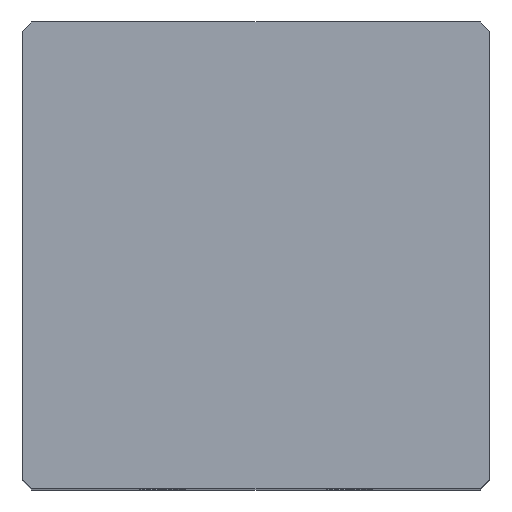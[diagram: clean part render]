
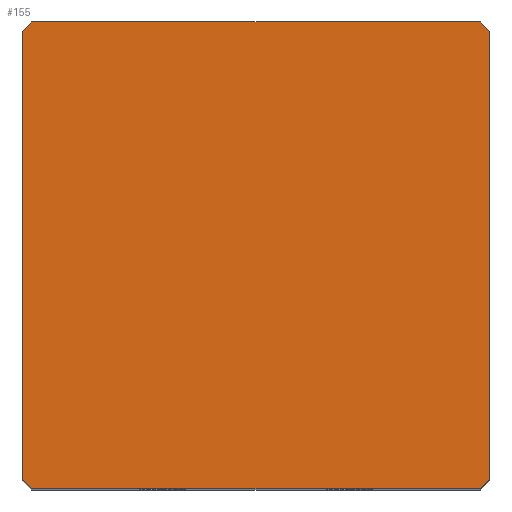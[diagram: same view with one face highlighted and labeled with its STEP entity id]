
A CAD part, top view. The second image highlights one B-rep face of the part: STEP entity #155.
In plain terms, the highlighted planar face has unit normal (0, 0, 1).
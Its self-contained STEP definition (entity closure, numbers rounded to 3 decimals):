
#39 = EDGE_CURVE('',#40,#42,#44,.T.);
#40 = VERTEX_POINT('',#41);
#41 = CARTESIAN_POINT('',(-10.,-9.6,31.75));
#42 = VERTEX_POINT('',#43);
#43 = CARTESIAN_POINT('',(-10.,9.6,31.75));
#44 = SURFACE_CURVE('',#45,(#49,#61),.PCURVE_S1.);
#45 = LINE('',#46,#47);
#46 = CARTESIAN_POINT('',(-10.,-10.,31.75));
#47 = VECTOR('',#48,1.);
#48 = DIRECTION('',(-0.,1.,0.));
#49 = PCURVE('',#50,#55);
#50 = PLANE('',#51);
#51 = AXIS2_PLACEMENT_3D('',#52,#53,#54);
#52 = CARTESIAN_POINT('',(-10.,-10.,0.));
#53 = DIRECTION('',(1.,0.,-0.));
#54 = DIRECTION('',(0.,0.,1.));
#55 = DEFINITIONAL_REPRESENTATION('',(#56),#60);
#56 = LINE('',#57,#58);
#57 = CARTESIAN_POINT('',(31.75,0.));
#58 = VECTOR('',#59,1.);
#59 = DIRECTION('',(0.,-1.));
#60 = ( GEOMETRIC_REPRESENTATION_CONTEXT(2) 
PARAMETRIC_REPRESENTATION_CONTEXT() REPRESENTATION_CONTEXT('2D SPACE',''
  ) );
#61 = PCURVE('',#62,#67);
#62 = PLANE('',#63);
#63 = AXIS2_PLACEMENT_3D('',#64,#65,#66);
#64 = CARTESIAN_POINT('',(-10.,-10.,31.75));
#65 = DIRECTION('',(0.,0.,1.));
#66 = DIRECTION('',(1.,0.,-0.));
#67 = DEFINITIONAL_REPRESENTATION('',(#68),#72);
#68 = LINE('',#69,#70);
#69 = CARTESIAN_POINT('',(0.,0.));
#70 = VECTOR('',#71,1.);
#71 = DIRECTION('',(0.,1.));
#72 = ( GEOMETRIC_REPRESENTATION_CONTEXT(2) 
PARAMETRIC_REPRESENTATION_CONTEXT() REPRESENTATION_CONTEXT('2D SPACE',''
  ) );
#90 = PLANE('',#91);
#91 = AXIS2_PLACEMENT_3D('',#92,#93,#94);
#92 = CARTESIAN_POINT('',(-9.8,-9.8,0.));
#93 = DIRECTION('',(-0.707,-0.707,0.));
#94 = DIRECTION('',(-0.,-0.,-1.));
#144 = PLANE('',#145);
#145 = AXIS2_PLACEMENT_3D('',#146,#147,#148);
#146 = CARTESIAN_POINT('',(-9.8,9.8,0.));
#147 = DIRECTION('',(0.707,-0.707,0.));
#148 = DIRECTION('',(-0.,-0.,-1.));
#155 = ADVANCED_FACE('',(#156),#62,.T.);
#156 = FACE_BOUND('',#157,.T.);
#157 = EDGE_LOOP('',(#158,#159,#182,#210,#238,#266,#294,#322));
#158 = ORIENTED_EDGE('',*,*,#39,.F.);
#159 = ORIENTED_EDGE('',*,*,#160,.T.);
#160 = EDGE_CURVE('',#40,#161,#163,.T.);
#161 = VERTEX_POINT('',#162);
#162 = CARTESIAN_POINT('',(-9.6,-10.,31.75));
#163 = SURFACE_CURVE('',#164,(#168,#175),.PCURVE_S1.);
#164 = LINE('',#165,#166);
#165 = CARTESIAN_POINT('',(-9.8,-9.8,31.75));
#166 = VECTOR('',#167,1.);
#167 = DIRECTION('',(0.707,-0.707,0.));
#168 = PCURVE('',#62,#169);
#169 = DEFINITIONAL_REPRESENTATION('',(#170),#174);
#170 = LINE('',#171,#172);
#171 = CARTESIAN_POINT('',(0.2,0.2));
#172 = VECTOR('',#173,1.);
#173 = DIRECTION('',(0.707,-0.707));
#174 = ( GEOMETRIC_REPRESENTATION_CONTEXT(2) 
PARAMETRIC_REPRESENTATION_CONTEXT() REPRESENTATION_CONTEXT('2D SPACE',''
  ) );
#175 = PCURVE('',#90,#176);
#176 = DEFINITIONAL_REPRESENTATION('',(#177),#181);
#177 = LINE('',#178,#179);
#178 = CARTESIAN_POINT('',(-31.75,0.));
#179 = VECTOR('',#180,1.);
#180 = DIRECTION('',(-0.,1.));
#181 = ( GEOMETRIC_REPRESENTATION_CONTEXT(2) 
PARAMETRIC_REPRESENTATION_CONTEXT() REPRESENTATION_CONTEXT('2D SPACE',''
  ) );
#182 = ORIENTED_EDGE('',*,*,#183,.T.);
#183 = EDGE_CURVE('',#161,#184,#186,.T.);
#184 = VERTEX_POINT('',#185);
#185 = CARTESIAN_POINT('',(9.6,-10.,31.75));
#186 = SURFACE_CURVE('',#187,(#191,#198),.PCURVE_S1.);
#187 = LINE('',#188,#189);
#188 = CARTESIAN_POINT('',(-10.,-10.,31.75));
#189 = VECTOR('',#190,1.);
#190 = DIRECTION('',(1.,0.,-0.));
#191 = PCURVE('',#62,#192);
#192 = DEFINITIONAL_REPRESENTATION('',(#193),#197);
#193 = LINE('',#194,#195);
#194 = CARTESIAN_POINT('',(0.,0.));
#195 = VECTOR('',#196,1.);
#196 = DIRECTION('',(1.,0.));
#197 = ( GEOMETRIC_REPRESENTATION_CONTEXT(2) 
PARAMETRIC_REPRESENTATION_CONTEXT() REPRESENTATION_CONTEXT('2D SPACE',''
  ) );
#198 = PCURVE('',#199,#204);
#199 = PLANE('',#200);
#200 = AXIS2_PLACEMENT_3D('',#201,#202,#203);
#201 = CARTESIAN_POINT('',(-10.,-10.,0.));
#202 = DIRECTION('',(-0.,1.,0.));
#203 = DIRECTION('',(0.,0.,1.));
#204 = DEFINITIONAL_REPRESENTATION('',(#205),#209);
#205 = LINE('',#206,#207);
#206 = CARTESIAN_POINT('',(31.75,0.));
#207 = VECTOR('',#208,1.);
#208 = DIRECTION('',(0.,1.));
#209 = ( GEOMETRIC_REPRESENTATION_CONTEXT(2) 
PARAMETRIC_REPRESENTATION_CONTEXT() REPRESENTATION_CONTEXT('2D SPACE',''
  ) );
#210 = ORIENTED_EDGE('',*,*,#211,.F.);
#211 = EDGE_CURVE('',#212,#184,#214,.T.);
#212 = VERTEX_POINT('',#213);
#213 = CARTESIAN_POINT('',(10.,-9.6,31.75));
#214 = SURFACE_CURVE('',#215,(#219,#226),.PCURVE_S1.);
#215 = LINE('',#216,#217);
#216 = CARTESIAN_POINT('',(4.8,-14.8,31.75));
#217 = VECTOR('',#218,1.);
#218 = DIRECTION('',(-0.707,-0.707,0.));
#219 = PCURVE('',#62,#220);
#220 = DEFINITIONAL_REPRESENTATION('',(#221),#225);
#221 = LINE('',#222,#223);
#222 = CARTESIAN_POINT('',(14.8,-4.8));
#223 = VECTOR('',#224,1.);
#224 = DIRECTION('',(-0.707,-0.707));
#225 = ( GEOMETRIC_REPRESENTATION_CONTEXT(2) 
PARAMETRIC_REPRESENTATION_CONTEXT() REPRESENTATION_CONTEXT('2D SPACE',''
  ) );
#226 = PCURVE('',#227,#232);
#227 = PLANE('',#228);
#228 = AXIS2_PLACEMENT_3D('',#229,#230,#231);
#229 = CARTESIAN_POINT('',(9.8,-9.8,0.));
#230 = DIRECTION('',(-0.707,0.707,0.));
#231 = DIRECTION('',(-0.,-0.,-1.));
#232 = DEFINITIONAL_REPRESENTATION('',(#233),#237);
#233 = LINE('',#234,#235);
#234 = CARTESIAN_POINT('',(-31.75,7.071));
#235 = VECTOR('',#236,1.);
#236 = DIRECTION('',(-0.,1.));
#237 = ( GEOMETRIC_REPRESENTATION_CONTEXT(2) 
PARAMETRIC_REPRESENTATION_CONTEXT() REPRESENTATION_CONTEXT('2D SPACE',''
  ) );
#238 = ORIENTED_EDGE('',*,*,#239,.T.);
#239 = EDGE_CURVE('',#212,#240,#242,.T.);
#240 = VERTEX_POINT('',#241);
#241 = CARTESIAN_POINT('',(10.,9.6,31.75));
#242 = SURFACE_CURVE('',#243,(#247,#254),.PCURVE_S1.);
#243 = LINE('',#244,#245);
#244 = CARTESIAN_POINT('',(10.,-10.,31.75));
#245 = VECTOR('',#246,1.);
#246 = DIRECTION('',(-0.,1.,0.));
#247 = PCURVE('',#62,#248);
#248 = DEFINITIONAL_REPRESENTATION('',(#249),#253);
#249 = LINE('',#250,#251);
#250 = CARTESIAN_POINT('',(20.,0.));
#251 = VECTOR('',#252,1.);
#252 = DIRECTION('',(0.,1.));
#253 = ( GEOMETRIC_REPRESENTATION_CONTEXT(2) 
PARAMETRIC_REPRESENTATION_CONTEXT() REPRESENTATION_CONTEXT('2D SPACE',''
  ) );
#254 = PCURVE('',#255,#260);
#255 = PLANE('',#256);
#256 = AXIS2_PLACEMENT_3D('',#257,#258,#259);
#257 = CARTESIAN_POINT('',(10.,-10.,0.));
#258 = DIRECTION('',(1.,0.,-0.));
#259 = DIRECTION('',(0.,0.,1.));
#260 = DEFINITIONAL_REPRESENTATION('',(#261),#265);
#261 = LINE('',#262,#263);
#262 = CARTESIAN_POINT('',(31.75,0.));
#263 = VECTOR('',#264,1.);
#264 = DIRECTION('',(0.,-1.));
#265 = ( GEOMETRIC_REPRESENTATION_CONTEXT(2) 
PARAMETRIC_REPRESENTATION_CONTEXT() REPRESENTATION_CONTEXT('2D SPACE',''
  ) );
#266 = ORIENTED_EDGE('',*,*,#267,.T.);
#267 = EDGE_CURVE('',#240,#268,#270,.T.);
#268 = VERTEX_POINT('',#269);
#269 = CARTESIAN_POINT('',(9.6,10.,31.75));
#270 = SURFACE_CURVE('',#271,(#275,#282),.PCURVE_S1.);
#271 = LINE('',#272,#273);
#272 = CARTESIAN_POINT('',(9.8,9.8,31.75));
#273 = VECTOR('',#274,1.);
#274 = DIRECTION('',(-0.707,0.707,0.));
#275 = PCURVE('',#62,#276);
#276 = DEFINITIONAL_REPRESENTATION('',(#277),#281);
#277 = LINE('',#278,#279);
#278 = CARTESIAN_POINT('',(19.8,19.8));
#279 = VECTOR('',#280,1.);
#280 = DIRECTION('',(-0.707,0.707));
#281 = ( GEOMETRIC_REPRESENTATION_CONTEXT(2) 
PARAMETRIC_REPRESENTATION_CONTEXT() REPRESENTATION_CONTEXT('2D SPACE',''
  ) );
#282 = PCURVE('',#283,#288);
#283 = PLANE('',#284);
#284 = AXIS2_PLACEMENT_3D('',#285,#286,#287);
#285 = CARTESIAN_POINT('',(9.8,9.8,0.));
#286 = DIRECTION('',(0.707,0.707,0.));
#287 = DIRECTION('',(-0.,0.,-1.));
#288 = DEFINITIONAL_REPRESENTATION('',(#289),#293);
#289 = LINE('',#290,#291);
#290 = CARTESIAN_POINT('',(-31.75,0.));
#291 = VECTOR('',#292,1.);
#292 = DIRECTION('',(-0.,1.));
#293 = ( GEOMETRIC_REPRESENTATION_CONTEXT(2) 
PARAMETRIC_REPRESENTATION_CONTEXT() REPRESENTATION_CONTEXT('2D SPACE',''
  ) );
#294 = ORIENTED_EDGE('',*,*,#295,.F.);
#295 = EDGE_CURVE('',#296,#268,#298,.T.);
#296 = VERTEX_POINT('',#297);
#297 = CARTESIAN_POINT('',(-9.6,10.,31.75));
#298 = SURFACE_CURVE('',#299,(#303,#310),.PCURVE_S1.);
#299 = LINE('',#300,#301);
#300 = CARTESIAN_POINT('',(-10.,10.,31.75));
#301 = VECTOR('',#302,1.);
#302 = DIRECTION('',(1.,0.,-0.));
#303 = PCURVE('',#62,#304);
#304 = DEFINITIONAL_REPRESENTATION('',(#305),#309);
#305 = LINE('',#306,#307);
#306 = CARTESIAN_POINT('',(0.,20.));
#307 = VECTOR('',#308,1.);
#308 = DIRECTION('',(1.,0.));
#309 = ( GEOMETRIC_REPRESENTATION_CONTEXT(2) 
PARAMETRIC_REPRESENTATION_CONTEXT() REPRESENTATION_CONTEXT('2D SPACE',''
  ) );
#310 = PCURVE('',#311,#316);
#311 = PLANE('',#312);
#312 = AXIS2_PLACEMENT_3D('',#313,#314,#315);
#313 = CARTESIAN_POINT('',(-10.,10.,0.));
#314 = DIRECTION('',(-0.,1.,0.));
#315 = DIRECTION('',(0.,0.,1.));
#316 = DEFINITIONAL_REPRESENTATION('',(#317),#321);
#317 = LINE('',#318,#319);
#318 = CARTESIAN_POINT('',(31.75,0.));
#319 = VECTOR('',#320,1.);
#320 = DIRECTION('',(0.,1.));
#321 = ( GEOMETRIC_REPRESENTATION_CONTEXT(2) 
PARAMETRIC_REPRESENTATION_CONTEXT() REPRESENTATION_CONTEXT('2D SPACE',''
  ) );
#322 = ORIENTED_EDGE('',*,*,#323,.F.);
#323 = EDGE_CURVE('',#42,#296,#324,.T.);
#324 = SURFACE_CURVE('',#325,(#329,#336),.PCURVE_S1.);
#325 = LINE('',#326,#327);
#326 = CARTESIAN_POINT('',(-14.8,4.8,31.75));
#327 = VECTOR('',#328,1.);
#328 = DIRECTION('',(0.707,0.707,-0.));
#329 = PCURVE('',#62,#330);
#330 = DEFINITIONAL_REPRESENTATION('',(#331),#335);
#331 = LINE('',#332,#333);
#332 = CARTESIAN_POINT('',(-4.8,14.8));
#333 = VECTOR('',#334,1.);
#334 = DIRECTION('',(0.707,0.707));
#335 = ( GEOMETRIC_REPRESENTATION_CONTEXT(2) 
PARAMETRIC_REPRESENTATION_CONTEXT() REPRESENTATION_CONTEXT('2D SPACE',''
  ) );
#336 = PCURVE('',#144,#337);
#337 = DEFINITIONAL_REPRESENTATION('',(#338),#342);
#338 = LINE('',#339,#340);
#339 = CARTESIAN_POINT('',(-31.75,-7.071));
#340 = VECTOR('',#341,1.);
#341 = DIRECTION('',(-0.,1.));
#342 = ( GEOMETRIC_REPRESENTATION_CONTEXT(2) 
PARAMETRIC_REPRESENTATION_CONTEXT() REPRESENTATION_CONTEXT('2D SPACE',''
  ) );
